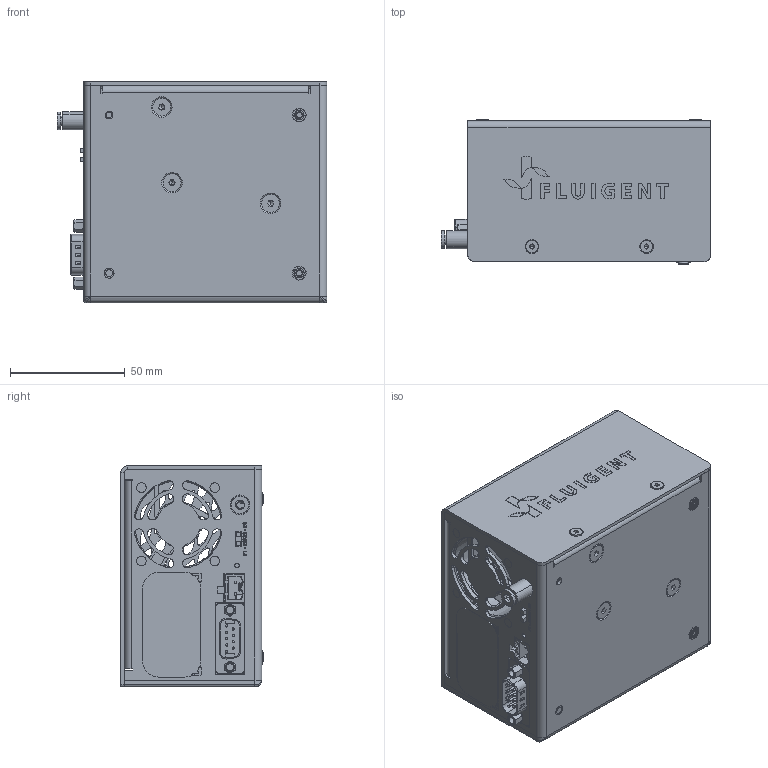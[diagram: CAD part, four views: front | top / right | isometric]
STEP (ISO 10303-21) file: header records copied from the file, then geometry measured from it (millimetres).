
FILE_DESCRIPTION (( 'STEP AP214' ), '1' );
FILE_NAME ('FGT_PRTEXT_RX-2020.STEP', '2020-06-30T14:04:24', ( '' ), ( '' ), 'SwSTEP 2.0', 'SolidWorks 2020', '' );
FILE_SCHEMA (( 'AUTOMOTIVE_DESIGN' ));
Length unit declared in the file: millimetre
Products named in the file (1): FGT_PRTEXT_RX-2020
Bounding box: 117.6 x 62.83 x 96.86 mm (x, y, z)
Surface area: 86952.1 mm2 (no closed solid volume)
Topology: 0 solids, 54 shells, 923 faces, 3088 edges, 2137 vertices
Faces by surface type: plane 396, cylinder 343, bspline 95, cone 87, torus 2
Entity records: 46625 total; most frequent: CARTESIAN_POINT 10654, DIRECTION 5223, ORIENTED_EDGE 4830, EDGE_CURVE 3052, VERTEX_POINT 2137, LINE 1849, VECTOR 1849, AXIS2_PLACEMENT_3D 1687
